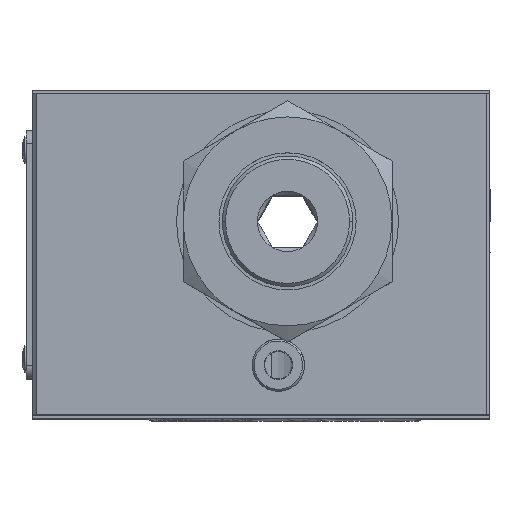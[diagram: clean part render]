
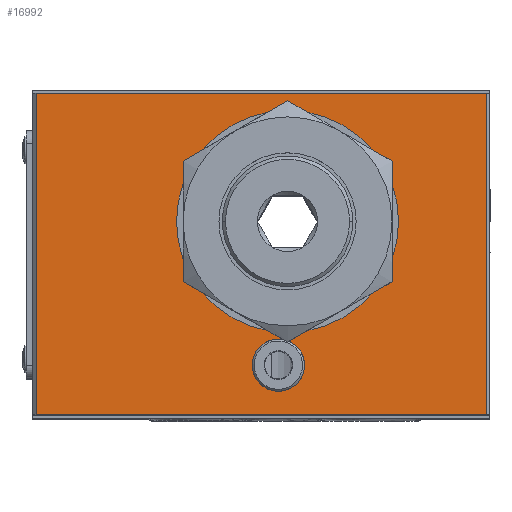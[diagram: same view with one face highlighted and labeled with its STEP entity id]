
A CAD part, top view. The second image highlights one B-rep face of the part: STEP entity #16992.
In plain terms, the highlighted planar face has unit normal (0, 0, 1).
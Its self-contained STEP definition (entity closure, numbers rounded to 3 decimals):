
#355 = CARTESIAN_POINT ( 'NONE',  ( -34.5, -24.6, 62.5 ) ) ;
#534 = DIRECTION ( 'NONE',  ( 0., 0., 1. ) ) ;
#634 = CARTESIAN_POINT ( 'NONE',  ( 34.5, 24.6, 62.5 ) ) ;
#766 = FACE_BOUND ( 'NONE', #31261, .T. ) ;
#1448 = CARTESIAN_POINT ( 'NONE',  ( -1.4, -17., 62.5 ) ) ;
#1901 = ORIENTED_EDGE ( 'NONE', *, *, #22810, .T. ) ;
#2312 = EDGE_CURVE ( 'NONE', #32690, #69326, #13797, .T. ) ;
#3257 = AXIS2_PLACEMENT_3D ( 'NONE', #37708, #534, #37936 ) ;
#3382 = EDGE_LOOP ( 'NONE', ( #25347, #61064 ) ) ;
#3570 = EDGE_LOOP ( 'NONE', ( #34994, #29456, #70194, #1901 ) ) ;
#4513 = VERTEX_POINT ( 'NONE', #634 ) ;
#9241 = VECTOR ( 'NONE', #22626, 1000. ) ;
#9578 = EDGE_CURVE ( 'NONE', #47674, #33399, #31189, .T. ) ;
#9892 = CARTESIAN_POINT ( 'NONE',  ( -34.5, 24.6, 62.5 ) ) ;
#11314 = CIRCLE ( 'NONE', #60196, 17. ) ;
#13159 = VECTOR ( 'NONE', #27323, 1000. ) ;
#13797 = LINE ( 'NONE', #23154, #69750 ) ;
#14216 = DIRECTION ( 'NONE',  ( 0., 0., 1. ) ) ;
#14454 = CARTESIAN_POINT ( 'NONE',  ( -35., -25.1, 62.5 ) ) ;
#15792 = DIRECTION ( 'NONE',  ( 0., 1., 0. ) ) ;
#16992 = ADVANCED_FACE ( 'NONE', ( #62647, #46510, #766 ), #68975, .T. ) ;
#17801 = LINE ( 'NONE', #58711, #42346 ) ;
#19400 = CARTESIAN_POINT ( 'NONE',  ( 4., 5., 62.5 ) ) ;
#19415 = AXIS2_PLACEMENT_3D ( 'NONE', #19400, #57317, #55633 ) ;
#19543 = DIRECTION ( 'NONE',  ( 1., 0., 0. ) ) ;
#22155 = CARTESIAN_POINT ( 'NONE',  ( -35., 24.6, 62.5 ) ) ;
#22626 = DIRECTION ( 'NONE',  ( 1., 0., 0. ) ) ;
#22810 = EDGE_CURVE ( 'NONE', #45138, #69326, #62337, .T. ) ;
#23154 = CARTESIAN_POINT ( 'NONE',  ( 35., -24.6, 62.5 ) ) ;
#25347 = ORIENTED_EDGE ( 'NONE', *, *, #34626, .F. ) ;
#27323 = DIRECTION ( 'NONE',  ( 0., -1., 0. ) ) ;
#28770 = EDGE_CURVE ( 'NONE', #48457, #60969, #11314, .T. ) ;
#29456 = ORIENTED_EDGE ( 'NONE', *, *, #54071, .T. ) ;
#30168 = DIRECTION ( 'NONE',  ( 1., 0., 0. ) ) ;
#30408 = CARTESIAN_POINT ( 'NONE',  ( 4., 5., 62.5 ) ) ;
#31189 = CIRCLE ( 'NONE', #32769, 4. ) ;
#31261 = EDGE_LOOP ( 'NONE', ( #37977, #60974 ) ) ;
#32108 = CIRCLE ( 'NONE', #3257, 4. ) ;
#32690 = VERTEX_POINT ( 'NONE', #57446 ) ;
#32769 = AXIS2_PLACEMENT_3D ( 'NONE', #63572, #57914, #19543 ) ;
#33399 = VERTEX_POINT ( 'NONE', #62484 ) ;
#34626 = EDGE_CURVE ( 'NONE', #33399, #47674, #32108, .T. ) ;
#34994 = ORIENTED_EDGE ( 'NONE', *, *, #2312, .F. ) ;
#36380 = LINE ( 'NONE', #22155, #9241 ) ;
#37708 = CARTESIAN_POINT ( 'NONE',  ( 2.6, -17., 62.5 ) ) ;
#37936 = DIRECTION ( 'NONE',  ( 1., 0., 0. ) ) ;
#37977 = ORIENTED_EDGE ( 'NONE', *, *, #28770, .F. ) ;
#39014 = CARTESIAN_POINT ( 'NONE',  ( 21., 5., 62.5 ) ) ;
#42346 = VECTOR ( 'NONE', #15792, 1000. ) ;
#43487 = CARTESIAN_POINT ( 'NONE',  ( -34.5, -24.6, 62.5 ) ) ;
#45138 = VERTEX_POINT ( 'NONE', #9892 ) ;
#46510 = FACE_BOUND ( 'NONE', #3382, .T. ) ;
#47674 = VERTEX_POINT ( 'NONE', #1448 ) ;
#48125 = EDGE_CURVE ( 'NONE', #60969, #48457, #64246, .T. ) ;
#48457 = VERTEX_POINT ( 'NONE', #39014 ) ;
#52125 = DIRECTION ( 'NONE',  ( 1., 0., 0. ) ) ;
#54071 = EDGE_CURVE ( 'NONE', #32690, #4513, #17801, .T. ) ;
#55633 = DIRECTION ( 'NONE',  ( 1., 0., 0. ) ) ;
#56299 = DIRECTION ( 'NONE',  ( -1., 0., 0. ) ) ;
#56959 = CARTESIAN_POINT ( 'NONE',  ( -13., 5., 62.5 ) ) ;
#57317 = DIRECTION ( 'NONE',  ( 0., 0., 1. ) ) ;
#57446 = CARTESIAN_POINT ( 'NONE',  ( 34.5, -24.6, 62.5 ) ) ;
#57914 = DIRECTION ( 'NONE',  ( 0., 0., 1. ) ) ;
#58711 = CARTESIAN_POINT ( 'NONE',  ( 34.5, 24.6, 62.5 ) ) ;
#60196 = AXIS2_PLACEMENT_3D ( 'NONE', #30408, #62739, #30168 ) ;
#60969 = VERTEX_POINT ( 'NONE', #56959 ) ;
#60974 = ORIENTED_EDGE ( 'NONE', *, *, #48125, .F. ) ;
#61064 = ORIENTED_EDGE ( 'NONE', *, *, #9578, .F. ) ;
#62337 = LINE ( 'NONE', #355, #13159 ) ;
#62484 = CARTESIAN_POINT ( 'NONE',  ( 6.6, -17., 62.5 ) ) ;
#62647 = FACE_OUTER_BOUND ( 'NONE', #3570, .T. ) ;
#62739 = DIRECTION ( 'NONE',  ( 0., 0., 1. ) ) ;
#63572 = CARTESIAN_POINT ( 'NONE',  ( 2.6, -17., 62.5 ) ) ;
#64246 = CIRCLE ( 'NONE', #19415, 17. ) ;
#67738 = AXIS2_PLACEMENT_3D ( 'NONE', #14454, #14216, #52125 ) ;
#68975 = PLANE ( 'NONE',  #67738 ) ;
#69316 = EDGE_CURVE ( 'NONE', #45138, #4513, #36380, .T. ) ;
#69326 = VERTEX_POINT ( 'NONE', #43487 ) ;
#69750 = VECTOR ( 'NONE', #56299, 1000. ) ;
#70194 = ORIENTED_EDGE ( 'NONE', *, *, #69316, .F. ) ;
